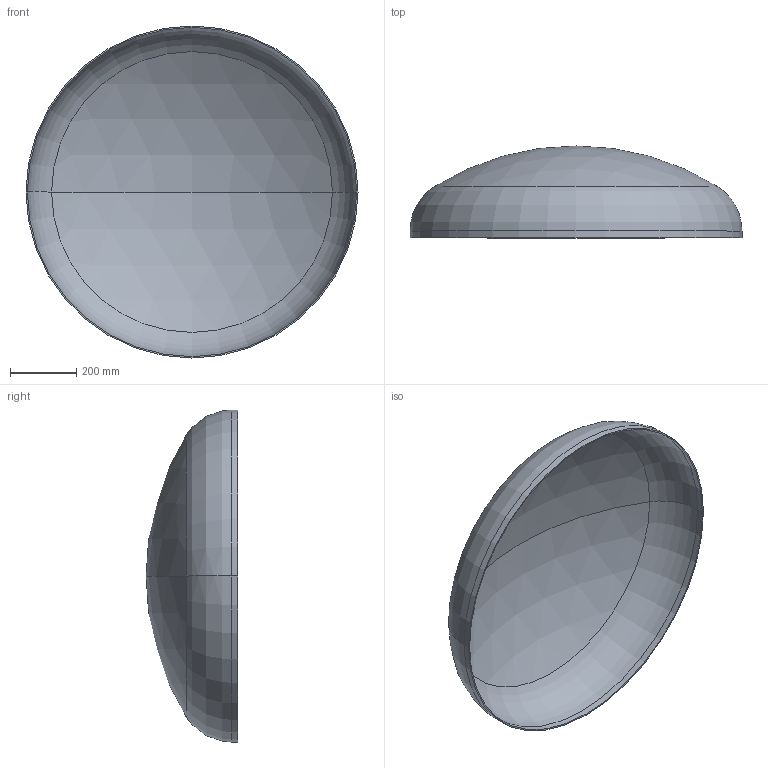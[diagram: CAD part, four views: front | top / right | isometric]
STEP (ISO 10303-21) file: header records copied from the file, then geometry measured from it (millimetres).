
FILE_DESCRIPTION (( 'STEP AP203' ), '1' );
FILE_NAME ('DIN 28013 Korbbogenform_-_Boden DIN 28013 - 1000 x 20 - I - s=4.step', '2016-07-01T08:40:18', ( '' ), ( '' ), 'SwSTEP 2.0', 'SolidWorks 2013', '' );
FILE_SCHEMA (( 'CONFIG_CONTROL_DESIGN' ));
Length unit declared in the file: millimetre
Products named in the file (1): DIN 28013 Korbbogenform_-_Boden DIN 28013 - 1000 x 20 - I - s=4
Bounding box: 1000 x 276.51 x 1000 mm (x, y, z)
Volume: 4584125.3 mm3; surface area: 2304611.4 mm2
Topology: 1 solids, 1 shells, 13 faces, 24 edges, 14 vertices
Faces by surface type: torus 4, cylinder 4, sphere 4, plane 1
Entity records: 407 total; most frequent: DIRECTION 72, CARTESIAN_POINT 52, ORIENTED_EDGE 48, AXIS2_PLACEMENT_3D 34, EDGE_CURVE 24, CIRCLE 20, EDGE_LOOP 14, VERTEX_POINT 14
